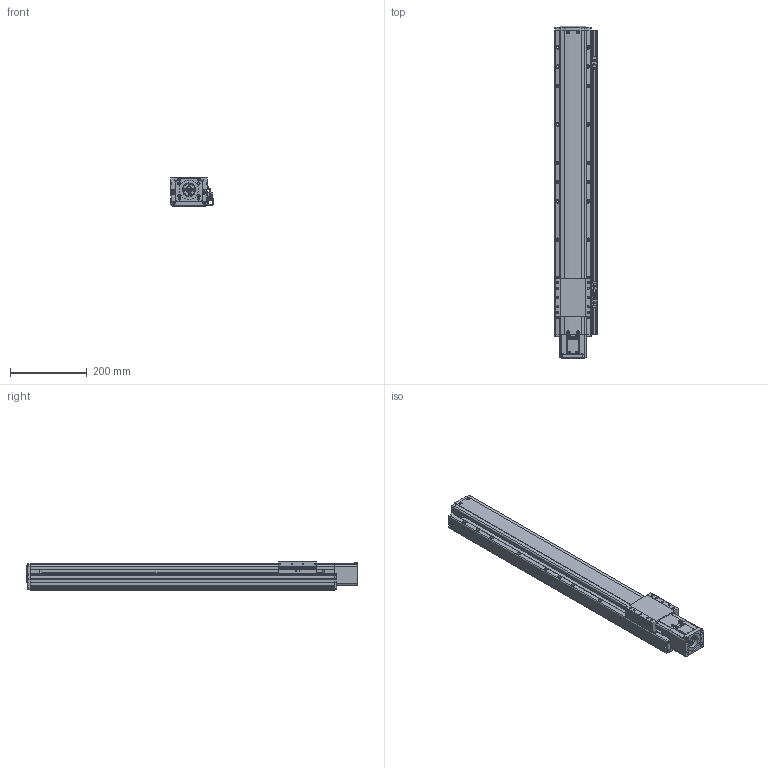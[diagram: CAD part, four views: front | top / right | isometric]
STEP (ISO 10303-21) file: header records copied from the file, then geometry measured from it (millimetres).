
FILE_DESCRIPTION(('STEP AP214'),'1');
FILE_NAME('Z:/Web/3D/PSA95/STP/PSA95-600 (3D)/PSA95ㅁㅁ-600S+3SR.stp','2014-07-03T00:38:29',(' '),(' '),'Spatial InterOp 3D',' ',' ');
FILE_SCHEMA(('automotive_design'));
Length unit declared in the file: millimetre
Products named in the file (53): BASE; RRCV; 스크루 : Round - M4.0 x 10.0; 너트 : Square - M10.0 x 220.7419; RR1500; FRCV-090; 스크루 : Round - M4.0 x 6.0; SLBL-PA90; SSFX-SAN65; CPLCV-SAN65; 스크루 : Round - M3.0 x 6.0; MTHZ-PA70/90-S60A-3; 스크루 : Socket - M4.0 x 20.0; NONE; EE-SX674; SBK-SX674-352; M3.0 x 6.0; SRL-16x17-380L; SGD-PA95; 스크루 : Round - M3.0 x 8.0
Bounding box: 111 x 862.5 x 74 mm (x, y, z)
Volume: 4597052.5 mm3; surface area: 594927.8 mm2
Topology: 53 solids, 87 shells, 3580 faces, 9200 edges, 5836 vertices
Faces by surface type: plane 1815, cylinder 1094, cone 415, torus 158, sphere 66, bspline 32
Entity records: 141150 total; most frequent: CARTESIAN_POINT 22806, DIRECTION 19240, ORIENTED_EDGE 18096, EDGE_CURVE 9048, AXIS2_PLACEMENT_3D 6832, VERTEX_POINT 5836, LINE 5576, VECTOR 5576
